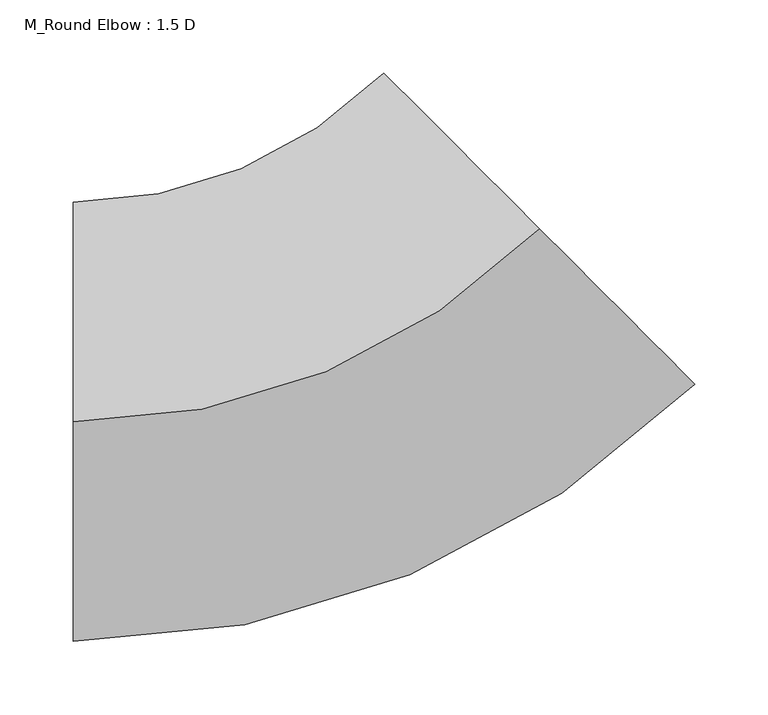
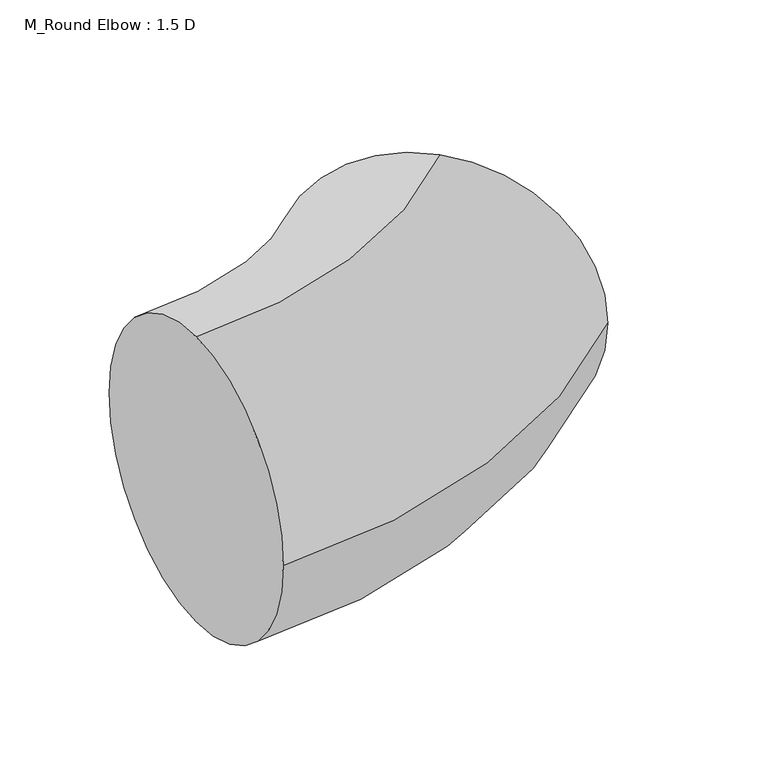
"""IFC4 building model written with IfcOpenShell, lengths in millimetres: duct fitting geometry, M_Round Elbow : 1.5 D."""

from ifc_helpers import new_model, si_unit, point, frame, origin, place, context, project, spatial, circle_curve, ellipse_curve, trimmed, source, transform, mapped, element, save
from ifc_brep_helpers import plane_surface, revolved_surface, advanced_brep


def m_round_elbow_1_5_d_aeba190e(model_context):
    return source(origin(), model_context, "Body", "AdvancedBrep", [
        advanced_brep(
        [(-186.3961031, 0.0, 150.0), (-186.3961031, 150.0, 0.0), (-186.3961031, 0.0, -150.0), (-186.3961031, -150.0, 0.0), (131.8019485, 131.8019485, 150.0), (237.8679656, 25.7359313, 0.0), (131.8019485, 131.8019485, -150.0), (25.7359313, 237.8679656, 0.0)],
        [
            (0, 1, circle_curve(frame((-186.3961031, 0.0, 0.0), z_axis=(-1.0, 0.0, 0.0), x_axis=(0.0, 1.0, 0.0)), 150.0)),
            (1, 2, circle_curve(frame((-186.3961031, 0.0, 0.0), z_axis=(-1.0, 0.0, 0.0), x_axis=(0.0, 1.0, 0.0)), 150.0)),
            (2, 3, circle_curve(frame((-186.3961031, 0.0, 0.0), z_axis=(-1.0, 0.0, 0.0), x_axis=(0.0, 1.0, 0.0)), 150.0)),
            (3, 0, circle_curve(frame((-186.3961031, 0.0, 0.0), z_axis=(-1.0, 0.0, 0.0), x_axis=(0.0, 1.0, 0.0)), 150.0)),
            (4, 5, circle_curve(frame((131.8019485, 131.8019485, 0.0), z_axis=(0.707106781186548, 0.707106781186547, 0.0), x_axis=(-0.707106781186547, 0.707106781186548, 0.0)), 150.0)),
            (5, 6, circle_curve(frame((131.8019485, 131.8019485, 0.0), z_axis=(0.707106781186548, 0.707106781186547, 0.0), x_axis=(-0.707106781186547, 0.707106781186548, 0.0)), 150.0)),
            (6, 7, circle_curve(frame((131.8019485, 131.8019485, 0.0), z_axis=(0.707106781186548, 0.707106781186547, 0.0), x_axis=(-0.707106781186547, 0.707106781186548, 0.0)), 150.0)),
            (7, 4, circle_curve(frame((131.8019485, 131.8019485, 0.0), z_axis=(0.707106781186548, 0.707106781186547, 0.0), x_axis=(-0.707106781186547, 0.707106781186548, 0.0)), 150.0)),
            (7, 1, circle_curve(frame((-186.3961031, 450.0, 0.0), z_axis=(0.0, 0.0, -1.0), x_axis=(0.0, -1.0, 0.0)), 300.0)),
            (0, 4, circle_curve(frame((-186.3961031, 450.0, 150.0), z_axis=(0.0, 0.0, 1.0), x_axis=(0.0, -1.0, 0.0)), 450.0)),
            (6, 2, circle_curve(frame((-186.3961031, 450.0, -150.0), z_axis=(0.0, 0.0, -1.0), x_axis=(0.0, -1.0, 0.0)), 450.0)),
            (5, 3, circle_curve(frame((-186.3961031, 450.0, 0.0), z_axis=(0.0, 0.0, -1.0), x_axis=(0.0, -1.0, 0.0)), 600.0)),
        ],
        [
            plane_surface(frame((-186.3961031, 0.0, 0.0), z_axis=(-1.0, 0.0, 0.0), x_axis=(0.0, 0.0, 1.0))),
            plane_surface(frame((131.8019485, 131.8019485, 0.0), z_axis=(0.707106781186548, 0.7071067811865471, 0.0), x_axis=(0.0, 0.0, 1.0))),
            revolved_surface(trimmed(ellipse_curve(frame((-186.3961031, 0.0, 0.0), z_axis=(-1.0, 0.0, 0.0), x_axis=(0.0, 1.0, 0.0)), 150.0, 150.0), [point((-186.3961031, 0.0, 150.0))], [point((-186.3961031, 150.0, 0.0))], True, "CARTESIAN"), (-186.3961031, 450.0, 0.0), (0.0, 0.0, 1.0)),
            revolved_surface(trimmed(ellipse_curve(frame((-186.3961031, 0.0, 0.0), z_axis=(-1.0, 0.0, 0.0), x_axis=(0.0, 1.0, 0.0)), 150.0, 150.0), [point((-186.3961031, 150.0, 0.0))], [point((-186.3961031, 0.0, -150.0))], True, "CARTESIAN"), (-186.3961031, 450.0, 0.0), (0.0, 0.0, 1.0)),
            revolved_surface(trimmed(ellipse_curve(frame((-186.3961031, 0.0, 0.0), z_axis=(-1.0, 0.0, 0.0), x_axis=(0.0, 1.0, 0.0)), 150.0, 150.0), [point((-186.3961031, 0.0, -150.0))], [point((-186.3961031, -150.0, 0.0))], True, "CARTESIAN"), (-186.3961031, 450.0, 0.0), (0.0, 0.0, 1.0)),
            revolved_surface(trimmed(ellipse_curve(frame((-186.3961031, 0.0, 0.0), z_axis=(-1.0, 0.0, 0.0), x_axis=(0.0, 1.0, 0.0)), 150.0, 150.0), [point((-186.3961031, -150.0, 0.0))], [point((-186.3961031, 0.0, 150.0))], True, "CARTESIAN"), (-186.3961031, 450.0, 0.0), (0.0, 0.0, 1.0)),
        ],
        [
            (0, [[1, 2, 3, 4]]),
            (1, [[5, 6, 7, 8]]),
            (2, [[9, -1, 10, -8]]),
            (3, [[11, -2, -9, -7]]),
            (4, [[12, -3, -11, -6]]),
            (5, [[-10, -4, -12, -5]]),
        ],
    ),
        advanced_brep(
        [(-186.3961031, 0.0, 150.0), (-186.3961031, 150.0, 0.0), (-186.3961031, 0.0, -150.0), (-186.3961031, -150.0, 0.0), (131.8019485, 131.8019485, 150.0), (237.8679656, 25.7359313, 0.0), (131.8019485, 131.8019485, -150.0), (25.7359313, 237.8679656, 0.0)],
        [
            (0, 1, circle_curve(frame((-186.3961031, 0.0, 0.0), z_axis=(-1.0, 0.0, 0.0), x_axis=(0.0, 1.0, 0.0)), 150.0)),
            (1, 2, circle_curve(frame((-186.3961031, 0.0, 0.0), z_axis=(-1.0, 0.0, 0.0), x_axis=(0.0, 1.0, 0.0)), 150.0)),
            (2, 3, circle_curve(frame((-186.3961031, 0.0, 0.0), z_axis=(-1.0, 0.0, 0.0), x_axis=(0.0, 1.0, 0.0)), 150.0)),
            (3, 0, circle_curve(frame((-186.3961031, 0.0, 0.0), z_axis=(-1.0, 0.0, 0.0), x_axis=(0.0, 1.0, 0.0)), 150.0)),
            (4, 5, circle_curve(frame((131.8019485, 131.8019485, 0.0), z_axis=(0.707106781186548, 0.707106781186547, 0.0), x_axis=(-0.707106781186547, 0.707106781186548, 0.0)), 150.0)),
            (5, 6, circle_curve(frame((131.8019485, 131.8019485, 0.0), z_axis=(0.707106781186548, 0.707106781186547, 0.0), x_axis=(-0.707106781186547, 0.707106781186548, 0.0)), 150.0)),
            (6, 7, circle_curve(frame((131.8019485, 131.8019485, 0.0), z_axis=(0.707106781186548, 0.707106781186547, 0.0), x_axis=(-0.707106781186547, 0.707106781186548, 0.0)), 150.0)),
            (7, 4, circle_curve(frame((131.8019485, 131.8019485, 0.0), z_axis=(0.707106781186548, 0.707106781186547, 0.0), x_axis=(-0.707106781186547, 0.707106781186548, 0.0)), 150.0)),
            (7, 1, circle_curve(frame((-186.3961031, 450.0, 0.0), z_axis=(0.0, 0.0, -1.0), x_axis=(0.0, -1.0, 0.0)), 300.0)),
            (0, 4, circle_curve(frame((-186.3961031, 450.0, 150.0), z_axis=(0.0, 0.0, 1.0), x_axis=(0.0, -1.0, 0.0)), 450.0)),
            (6, 2, circle_curve(frame((-186.3961031, 450.0, -150.0), z_axis=(0.0, 0.0, -1.0), x_axis=(0.0, -1.0, 0.0)), 450.0)),
            (5, 3, circle_curve(frame((-186.3961031, 450.0, 0.0), z_axis=(0.0, 0.0, -1.0), x_axis=(0.0, -1.0, 0.0)), 600.0)),
        ],
        [
            plane_surface(frame((-186.3961031, 0.0, 0.0), z_axis=(-1.0, 0.0, 0.0), x_axis=(0.0, 0.0, 1.0))),
            plane_surface(frame((131.8019485, 131.8019485, 0.0), z_axis=(0.707106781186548, 0.7071067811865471, 0.0), x_axis=(0.0, 0.0, 1.0))),
            revolved_surface(trimmed(ellipse_curve(frame((-186.3961031, 0.0, 0.0), z_axis=(-1.0, 0.0, 0.0), x_axis=(0.0, 1.0, 0.0)), 150.0, 150.0), [point((-186.3961031, 0.0, 150.0))], [point((-186.3961031, 150.0, 0.0))], True, "CARTESIAN"), (-186.3961031, 450.0, 0.0), (0.0, 0.0, 1.0)),
            revolved_surface(trimmed(ellipse_curve(frame((-186.3961031, 0.0, 0.0), z_axis=(-1.0, 0.0, 0.0), x_axis=(0.0, 1.0, 0.0)), 150.0, 150.0), [point((-186.3961031, 150.0, 0.0))], [point((-186.3961031, 0.0, -150.0))], True, "CARTESIAN"), (-186.3961031, 450.0, 0.0), (0.0, 0.0, 1.0)),
            revolved_surface(trimmed(ellipse_curve(frame((-186.3961031, 0.0, 0.0), z_axis=(-1.0, 0.0, 0.0), x_axis=(0.0, 1.0, 0.0)), 150.0, 150.0), [point((-186.3961031, 0.0, -150.0))], [point((-186.3961031, -150.0, 0.0))], True, "CARTESIAN"), (-186.3961031, 450.0, 0.0), (0.0, 0.0, 1.0)),
            revolved_surface(trimmed(ellipse_curve(frame((-186.3961031, 0.0, 0.0), z_axis=(-1.0, 0.0, 0.0), x_axis=(0.0, 1.0, 0.0)), 150.0, 150.0), [point((-186.3961031, -150.0, 0.0))], [point((-186.3961031, 0.0, 150.0))], True, "CARTESIAN"), (-186.3961031, 450.0, 0.0), (0.0, 0.0, 1.0)),
        ],
        [
            (0, [[1, 2, 3, 4]]),
            (1, [[5, 6, 7, 8]]),
            (2, [[9, -1, 10, -8]]),
            (3, [[11, -2, -9, -7]]),
            (4, [[12, -3, -11, -6]]),
            (5, [[-10, -4, -12, -5]]),
        ],
    ),
        advanced_brep(
        [(-186.3961031, 0.0, 150.0), (-186.3961031, 150.0, 0.0), (-186.3961031, 0.0, -150.0), (-186.3961031, -150.0, 0.0), (131.8019485, 131.8019485, 150.0), (237.8679656, 25.7359313, 0.0), (131.8019485, 131.8019485, -150.0), (25.7359313, 237.8679656, 0.0)],
        [
            (0, 1, circle_curve(frame((-186.3961031, 0.0, 0.0), z_axis=(-1.0, 0.0, 0.0), x_axis=(0.0, 1.0, 0.0)), 150.0)),
            (1, 2, circle_curve(frame((-186.3961031, 0.0, 0.0), z_axis=(-1.0, 0.0, 0.0), x_axis=(0.0, 1.0, 0.0)), 150.0)),
            (2, 3, circle_curve(frame((-186.3961031, 0.0, 0.0), z_axis=(-1.0, 0.0, 0.0), x_axis=(0.0, 1.0, 0.0)), 150.0)),
            (3, 0, circle_curve(frame((-186.3961031, 0.0, 0.0), z_axis=(-1.0, 0.0, 0.0), x_axis=(0.0, 1.0, 0.0)), 150.0)),
            (4, 5, circle_curve(frame((131.8019485, 131.8019485, 0.0), z_axis=(0.707106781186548, 0.707106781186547, 0.0), x_axis=(-0.707106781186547, 0.707106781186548, 0.0)), 150.0)),
            (5, 6, circle_curve(frame((131.8019485, 131.8019485, 0.0), z_axis=(0.707106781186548, 0.707106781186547, 0.0), x_axis=(-0.707106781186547, 0.707106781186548, 0.0)), 150.0)),
            (6, 7, circle_curve(frame((131.8019485, 131.8019485, 0.0), z_axis=(0.707106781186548, 0.707106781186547, 0.0), x_axis=(-0.707106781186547, 0.707106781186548, 0.0)), 150.0)),
            (7, 4, circle_curve(frame((131.8019485, 131.8019485, 0.0), z_axis=(0.707106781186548, 0.707106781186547, 0.0), x_axis=(-0.707106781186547, 0.707106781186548, 0.0)), 150.0)),
            (7, 1, circle_curve(frame((-186.3961031, 450.0, 0.0), z_axis=(0.0, 0.0, -1.0), x_axis=(0.0, -1.0, 0.0)), 300.0)),
            (0, 4, circle_curve(frame((-186.3961031, 450.0, 150.0), z_axis=(0.0, 0.0, 1.0), x_axis=(0.0, -1.0, 0.0)), 450.0)),
            (6, 2, circle_curve(frame((-186.3961031, 450.0, -150.0), z_axis=(0.0, 0.0, -1.0), x_axis=(0.0, -1.0, 0.0)), 450.0)),
            (5, 3, circle_curve(frame((-186.3961031, 450.0, 0.0), z_axis=(0.0, 0.0, -1.0), x_axis=(0.0, -1.0, 0.0)), 600.0)),
        ],
        [
            plane_surface(frame((-186.3961031, 0.0, 0.0), z_axis=(-1.0, 0.0, 0.0), x_axis=(0.0, 0.0, 1.0))),
            plane_surface(frame((131.8019485, 131.8019485, 0.0), z_axis=(0.707106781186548, 0.7071067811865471, 0.0), x_axis=(0.0, 0.0, 1.0))),
            revolved_surface(trimmed(ellipse_curve(frame((-186.3961031, 0.0, 0.0), z_axis=(-1.0, 0.0, 0.0), x_axis=(0.0, 1.0, 0.0)), 150.0, 150.0), [point((-186.3961031, 0.0, 150.0))], [point((-186.3961031, 150.0, 0.0))], True, "CARTESIAN"), (-186.3961031, 450.0, 0.0), (0.0, 0.0, 1.0)),
            revolved_surface(trimmed(ellipse_curve(frame((-186.3961031, 0.0, 0.0), z_axis=(-1.0, 0.0, 0.0), x_axis=(0.0, 1.0, 0.0)), 150.0, 150.0), [point((-186.3961031, 150.0, 0.0))], [point((-186.3961031, 0.0, -150.0))], True, "CARTESIAN"), (-186.3961031, 450.0, 0.0), (0.0, 0.0, 1.0)),
            revolved_surface(trimmed(ellipse_curve(frame((-186.3961031, 0.0, 0.0), z_axis=(-1.0, 0.0, 0.0), x_axis=(0.0, 1.0, 0.0)), 150.0, 150.0), [point((-186.3961031, 0.0, -150.0))], [point((-186.3961031, -150.0, 0.0))], True, "CARTESIAN"), (-186.3961031, 450.0, 0.0), (0.0, 0.0, 1.0)),
            revolved_surface(trimmed(ellipse_curve(frame((-186.3961031, 0.0, 0.0), z_axis=(-1.0, 0.0, 0.0), x_axis=(0.0, 1.0, 0.0)), 150.0, 150.0), [point((-186.3961031, -150.0, 0.0))], [point((-186.3961031, 0.0, 150.0))], True, "CARTESIAN"), (-186.3961031, 450.0, 0.0), (0.0, 0.0, 1.0)),
        ],
        [
            (0, [[1, 2, 3, 4]]),
            (1, [[5, 6, 7, 8]]),
            (2, [[9, -1, 10, -8]]),
            (3, [[11, -2, -9, -7]]),
            (4, [[12, -3, -11, -6]]),
            (5, [[-10, -4, -12, -5]]),
        ],
    ),
    ])


if __name__ == "__main__":
    model = new_model("IFC4")
    model_context = context("Model", 3, world=origin())
    ifc_project = project(units=[si_unit("LENGTHUNIT", "METRE", prefix="MILLI")], contexts=[model_context])
    site = spatial("IfcSite", under=ifc_project)
    building = spatial("IfcBuilding", under=site)
    placement = place(None, origin())
    m_round_elbow_1_5_d_shape = m_round_elbow_1_5_d_aeba190e(model_context)
    element("IfcDuctFitting", 1, ObjectType="M_Round Elbow : 1.5 D", at=placement, inside=building, context=model_context, shape_type="MappedRepresentation", body=[
        mapped(m_round_elbow_1_5_d_shape, transform((0.0, 0.0, 0.0), x_axis=(1.0, 0.0, 0.0), y_axis=(0.0, 1.0, 0.0), z_axis=(0.0, 0.0, 1.0))),
    ])
    save(model, "model.ifc")
